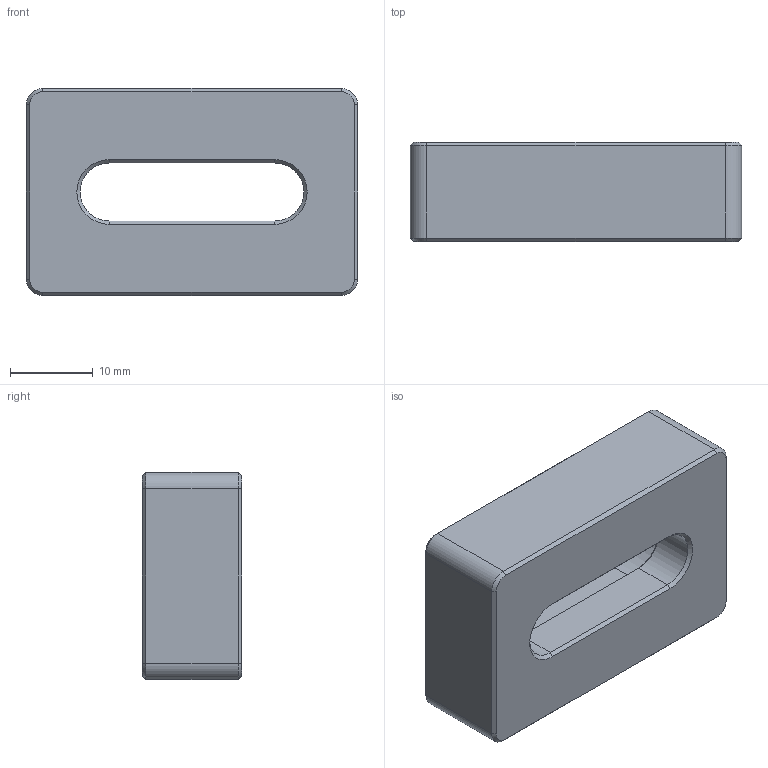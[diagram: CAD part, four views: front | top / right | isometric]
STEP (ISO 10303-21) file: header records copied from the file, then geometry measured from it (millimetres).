
FILE_DESCRIPTION(/* description */ (''),/* implementation_level */ '2;1');
FILE_NAME(/* name */ '55055 - Cylinder Stop.step',/* time_stamp */ '2025-10-28T10:45:36-05:00',/* author */ (''),/* organization */ (''),/* preprocessor_version */ 'ST-DEVELOPER v20.1',/* originating_system */ 'Autodesk Translation Framework v14.17.0.0',/* authorisation */ '');
FILE_SCHEMA (('AUTOMOTIVE_DESIGN { 1 0 10303 214 3 1 1 }'));
Length unit declared in the file: millimetre
Products named in the file (1): CYLINDER BACKSTOP
Bounding box: 40 x 12 x 25 mm (x, y, z)
Volume: 8920.5 mm3; surface area: 3872.4 mm2
Topology: 1 solids, 1 shells, 47 faces, 104 edges, 60 vertices
Faces by surface type: plane 25, cone 14, cylinder 8
Entity records: 1308 total; most frequent: DIRECTION 230, CARTESIAN_POINT 212, ORIENTED_EDGE 208, EDGE_CURVE 104, AXIS2_PLACEMENT_3D 78, LINE 74, VECTOR 74, VERTEX_POINT 60
